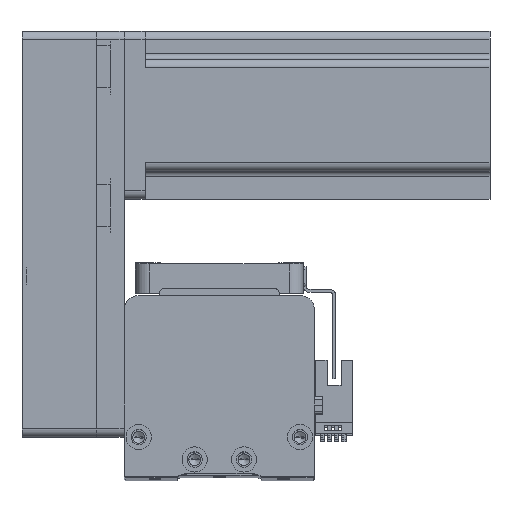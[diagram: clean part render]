
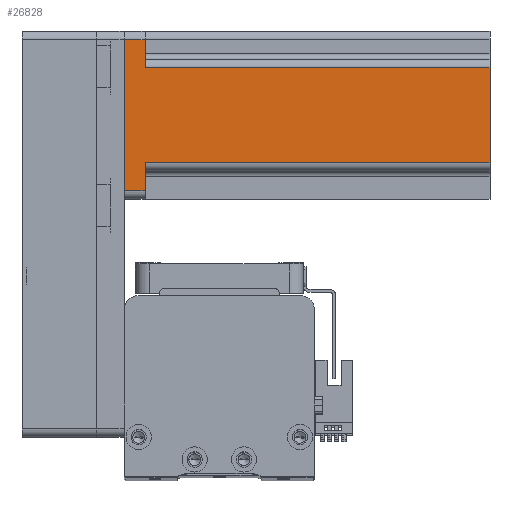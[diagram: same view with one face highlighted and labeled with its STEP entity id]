
A CAD part, top view. The second image highlights one B-rep face of the part: STEP entity #26828.
In plain terms, the highlighted planar face has unit normal (0, 0, 1) as drawn and (0, 1, 0) by its records, which use the part's own axes.
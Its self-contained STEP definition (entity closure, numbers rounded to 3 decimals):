
#337 = VERTEX_POINT ( 'NONE', #28179 ) ;
#1083 = LINE ( 'NONE', #28982, #26230 ) ;
#2049 = AXIS2_PLACEMENT_3D ( 'NONE', #7651, #31536, #11072 ) ;
#6119 = CARTESIAN_POINT ( 'NONE',  ( -27., 30., 0. ) ) ;
#6282 = VECTOR ( 'NONE', #6407, 1000. ) ;
#6407 = DIRECTION ( 'NONE',  ( 0., 0., -1. ) ) ;
#7017 = VERTEX_POINT ( 'NONE', #40756 ) ;
#7074 = DIRECTION ( 'NONE',  ( 0., 0., 1. ) ) ;
#7588 = ORIENTED_EDGE ( 'NONE', *, *, #35718, .T. ) ;
#7651 = CARTESIAN_POINT ( 'NONE',  ( 30., 30., 130.7 ) ) ;
#9267 = ORIENTED_EDGE ( 'NONE', *, *, #41895, .F. ) ;
#9542 = EDGE_CURVE ( 'NONE', #36741, #31024, #15269, .T. ) ;
#9754 = CARTESIAN_POINT ( 'NONE',  ( 30., 30., 0. ) ) ;
#10578 = CARTESIAN_POINT ( 'NONE',  ( -20., 30., 7.5 ) ) ;
#11072 = DIRECTION ( 'NONE',  ( 1., 0., 0. ) ) ;
#11276 = LINE ( 'NONE', #27422, #37535 ) ;
#12657 = DIRECTION ( 'NONE',  ( 0., 0., -1. ) ) ;
#13000 = CARTESIAN_POINT ( 'NONE',  ( -27., 30., 130.7 ) ) ;
#14428 = LINE ( 'NONE', #9754, #40680 ) ;
#14664 = CARTESIAN_POINT ( 'NONE',  ( -17., 30., 130.7 ) ) ;
#14807 = ORIENTED_EDGE ( 'NONE', *, *, #28329, .T. ) ;
#15100 = CARTESIAN_POINT ( 'NONE',  ( 17., 30., 130.7 ) ) ;
#15136 = EDGE_CURVE ( 'NONE', #41606, #337, #15431, .T. ) ;
#15269 = LINE ( 'NONE', #10578, #41494 ) ;
#15431 = LINE ( 'NONE', #36611, #32533 ) ;
#16603 = CARTESIAN_POINT ( 'NONE',  ( 27., 30., 130.7 ) ) ;
#17614 = VERTEX_POINT ( 'NONE', #6119 ) ;
#17679 = EDGE_CURVE ( 'NONE', #7017, #42735, #24502, .T. ) ;
#18393 = ORIENTED_EDGE ( 'NONE', *, *, #9542, .T. ) ;
#20341 = CARTESIAN_POINT ( 'NONE',  ( 20., 30., 7.5 ) ) ;
#21709 = CARTESIAN_POINT ( 'NONE',  ( -17., 30., 7.5 ) ) ;
#22286 = CARTESIAN_POINT ( 'NONE',  ( -27., 30., 7.5 ) ) ;
#23783 = DIRECTION ( 'NONE',  ( -1., 0., 0. ) ) ;
#24502 = LINE ( 'NONE', #16603, #6282 ) ;
#24559 = PLANE ( 'NONE',  #2049 ) ;
#24705 = LINE ( 'NONE', #20341, #41815 ) ;
#26230 = VECTOR ( 'NONE', #39313, 1000. ) ;
#26828 = ADVANCED_FACE ( 'NONE', ( #30161 ), #24559, .F. ) ;
#27422 = CARTESIAN_POINT ( 'NONE',  ( -17., 30., 130.7 ) ) ;
#28179 = CARTESIAN_POINT ( 'NONE',  ( 17., 30., 7.5 ) ) ;
#28329 = EDGE_CURVE ( 'NONE', #17614, #36741, #31757, .T. ) ;
#28982 = CARTESIAN_POINT ( 'NONE',  ( 30., 30., 130.7 ) ) ;
#29921 = DIRECTION ( 'NONE',  ( 0., 0., 1. ) ) ;
#30161 = FACE_OUTER_BOUND ( 'NONE', #38105, .T. ) ;
#30262 = DIRECTION ( 'NONE',  ( -1., 0., 0. ) ) ;
#31024 = VERTEX_POINT ( 'NONE', #21709 ) ;
#31536 = DIRECTION ( 'NONE',  ( 0., -1., 0. ) ) ;
#31757 = LINE ( 'NONE', #13000, #40878 ) ;
#31935 = EDGE_CURVE ( 'NONE', #42735, #17614, #14428, .T. ) ;
#32203 = VERTEX_POINT ( 'NONE', #14664 ) ;
#32533 = VECTOR ( 'NONE', #12657, 1000. ) ;
#33083 = CARTESIAN_POINT ( 'NONE',  ( 27., 30., 0. ) ) ;
#33674 = ORIENTED_EDGE ( 'NONE', *, *, #31935, .T. ) ;
#34530 = DIRECTION ( 'NONE',  ( 1., 0., 0. ) ) ;
#35718 = EDGE_CURVE ( 'NONE', #31024, #32203, #11276, .T. ) ;
#36611 = CARTESIAN_POINT ( 'NONE',  ( 17., 30., 130.7 ) ) ;
#36741 = VERTEX_POINT ( 'NONE', #22286 ) ;
#36745 = ORIENTED_EDGE ( 'NONE', *, *, #38949, .F. ) ;
#36950 = ORIENTED_EDGE ( 'NONE', *, *, #15136, .T. ) ;
#37535 = VECTOR ( 'NONE', #7074, 1000. ) ;
#38105 = EDGE_LOOP ( 'NONE', ( #18393, #7588, #36745, #36950, #9267, #41433, #33674, #14807 ) ) ;
#38949 = EDGE_CURVE ( 'NONE', #41606, #32203, #1083, .T. ) ;
#39313 = DIRECTION ( 'NONE',  ( -1., 0., 0. ) ) ;
#40680 = VECTOR ( 'NONE', #30262, 1000. ) ;
#40756 = CARTESIAN_POINT ( 'NONE',  ( 27., 30., 7.5 ) ) ;
#40878 = VECTOR ( 'NONE', #29921, 1000. ) ;
#41433 = ORIENTED_EDGE ( 'NONE', *, *, #17679, .T. ) ;
#41494 = VECTOR ( 'NONE', #34530, 1000. ) ;
#41606 = VERTEX_POINT ( 'NONE', #15100 ) ;
#41815 = VECTOR ( 'NONE', #23783, 1000. ) ;
#41895 = EDGE_CURVE ( 'NONE', #7017, #337, #24705, .T. ) ;
#42735 = VERTEX_POINT ( 'NONE', #33083 ) ;
